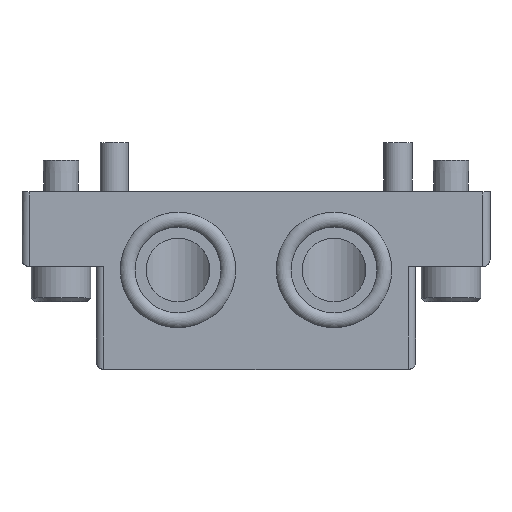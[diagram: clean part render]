
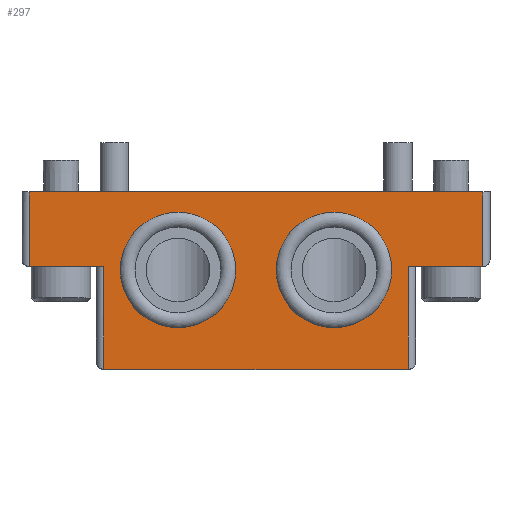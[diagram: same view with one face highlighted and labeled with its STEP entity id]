
A CAD part, top view. The second image highlights one B-rep face of the part: STEP entity #297.
In plain terms, the highlighted planar face has unit normal (0, 0, 1).
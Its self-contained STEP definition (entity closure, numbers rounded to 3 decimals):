
#297=ADVANCED_FACE('',(#604,#605,#606),#607,.T.);
#604=FACE_BOUND('',#899,.T.);
#605=FACE_BOUND('',#900,.T.);
#606=FACE_OUTER_BOUND('',#901,.T.);
#607=PLANE('',#902);
#899=EDGE_LOOP('',(#1471));
#900=EDGE_LOOP('',(#1472));
#901=EDGE_LOOP('',(#1473,#1474,#1475,#1476,#1477,#1478,#1479,#1480));
#902=AXIS2_PLACEMENT_3D('',#1481,#1482,#1483);
#1471=ORIENTED_EDGE('',*,*,#1662,.F.);
#1472=ORIENTED_EDGE('',*,*,#1692,.F.);
#1473=ORIENTED_EDGE('',*,*,#1566,.T.);
#1474=ORIENTED_EDGE('',*,*,#1725,.T.);
#1475=ORIENTED_EDGE('',*,*,#1624,.T.);
#1476=ORIENTED_EDGE('',*,*,#1731,.T.);
#1477=ORIENTED_EDGE('',*,*,#1549,.T.);
#1478=ORIENTED_EDGE('',*,*,#1594,.T.);
#1479=ORIENTED_EDGE('',*,*,#1728,.T.);
#1480=ORIENTED_EDGE('',*,*,#1696,.T.);
#1481=CARTESIAN_POINT('',(-33.0,-25.0,14.0));
#1482=DIRECTION('',(0.0,0.0,1.0));
#1483=DIRECTION('',(1.0,0.0,0.0));
#1549=EDGE_CURVE('',#1791,#1789,#1792,.T.);
#1566=EDGE_CURVE('',#1821,#1819,#1822,.T.);
#1594=EDGE_CURVE('',#1789,#1862,#1864,.T.);
#1624=EDGE_CURVE('',#1909,#1795,#1910,.T.);
#1662=EDGE_CURVE('',#1967,#1967,#1968,.T.);
#1692=EDGE_CURVE('',#2008,#2008,#2009,.T.);
#1696=EDGE_CURVE('',#2012,#1821,#2015,.T.);
#1725=EDGE_CURVE('',#1819,#1909,#2042,.T.);
#1728=EDGE_CURVE('',#1862,#2012,#2045,.T.);
#1731=EDGE_CURVE('',#1795,#1791,#2048,.T.);
#1789=VERTEX_POINT('',#2198);
#1791=VERTEX_POINT('',#2200);
#1792=LINE('',#2201,#2202);
#1795=VERTEX_POINT('',#2205);
#1819=VERTEX_POINT('',#2236);
#1821=VERTEX_POINT('',#2239);
#1822=LINE('',#2240,#2241);
#1862=VERTEX_POINT('',#2371);
#1864=LINE('',#2373,#2374);
#1909=VERTEX_POINT('',#2427);
#1910=LINE('',#2428,#2429);
#1967=VERTEX_POINT('',#2503);
#1968=CIRCLE('',#2504,8.139);
#2008=VERTEX_POINT('',#2559);
#2009=CIRCLE('',#2560,8.139);
#2012=VERTEX_POINT('',#2563);
#2015=LINE('',#2567,#2568);
#2042=LINE('',#2604,#2605);
#2045=LINE('',#2608,#2609);
#2048=LINE('',#2612,#2613);
#2198=CARTESIAN_POINT('',(-32.0,0.,14.0));
#2200=CARTESIAN_POINT('',(32.0,0.,14.0));
#2201=CARTESIAN_POINT('',(33.0,0.,14.0));
#2202=VECTOR('',#2673,1.0);
#2205=CARTESIAN_POINT('',(32.0,-10.5,14.0));
#2236=CARTESIAN_POINT('',(21.5,-25.0,14.0));
#2239=CARTESIAN_POINT('',(-21.5,-25.0,14.0));
#2240=CARTESIAN_POINT('',(-33.0,-25.0,14.0));
#2241=VECTOR('',#2697,1.0);
#2371=CARTESIAN_POINT('',(-32.0,-10.5,14.0));
#2373=CARTESIAN_POINT('',(-32.0,-25.0,14.0));
#2374=VECTOR('',#2738,1.0);
#2427=CARTESIAN_POINT('',(21.5,-10.5,14.0));
#2428=CARTESIAN_POINT('',(22.5,-10.5,14.0));
#2429=VECTOR('',#2780,1.0);
#2503=CARTESIAN_POINT('',(-2.861,-11.,14.0));
#2504=AXIS2_PLACEMENT_3D('',#2822,#2823,#2824);
#2559=CARTESIAN_POINT('',(19.139,-11.,14.0));
#2560=AXIS2_PLACEMENT_3D('',#2846,#2847,#2848);
#2563=CARTESIAN_POINT('',(-21.5,-10.5,14.0));
#2567=CARTESIAN_POINT('',(-21.5,-25.0,14.0));
#2568=VECTOR('',#2853,1.0);
#2604=CARTESIAN_POINT('',(21.5,-25.0,14.0));
#2605=VECTOR('',#2863,1.0);
#2608=CARTESIAN_POINT('',(-33.0,-10.5,14.0));
#2609=VECTOR('',#2864,1.0);
#2612=CARTESIAN_POINT('',(32.0,0.,14.0));
#2613=VECTOR('',#2865,1.0);
#2673=DIRECTION('',(-1.0,0.0,0.0));
#2697=DIRECTION('',(1.0,0.0,0.0));
#2738=DIRECTION('',(0.0,-1.0,0.0));
#2780=DIRECTION('',(1.0,0.0,0.0));
#2822=CARTESIAN_POINT('',(-11.,-11.,14.0));
#2823=DIRECTION('',(0.0,0.0,1.0));
#2824=DIRECTION('',(1.0,0.0,0.0));
#2846=CARTESIAN_POINT('',(11.,-11.,14.0));
#2847=DIRECTION('',(0.0,0.0,1.0));
#2848=DIRECTION('',(1.0,0.0,0.0));
#2853=DIRECTION('',(0.0,-1.0,0.0));
#2863=DIRECTION('',(0.0,1.0,0.0));
#2864=DIRECTION('',(1.0,0.0,0.0));
#2865=DIRECTION('',(0.0,1.0,0.0));
